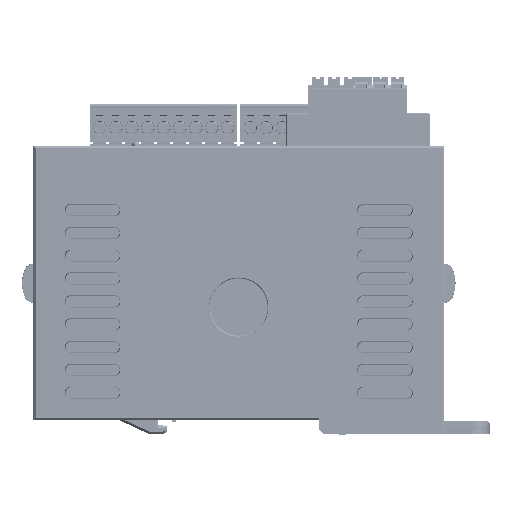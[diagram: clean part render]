
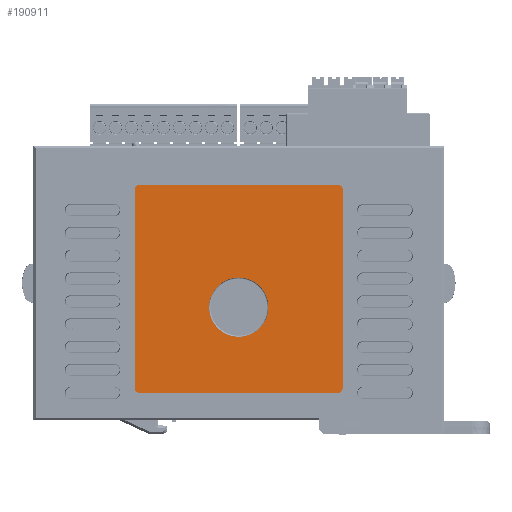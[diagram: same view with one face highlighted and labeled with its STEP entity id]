
A CAD part, left-side view. The second image highlights one B-rep face of the part: STEP entity #190911.
In plain terms, the highlighted planar face has unit normal (-1, 0, 0) as drawn and (0, 0, 1) by its records, which use the part's own axes.
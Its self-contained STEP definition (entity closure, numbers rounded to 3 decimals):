
#3100 = CARTESIAN_POINT ( 'NONE',  ( 16.751, -11.75, 38.24 ) ) ;
#7565 = CARTESIAN_POINT ( 'NONE',  ( -5.999, 32.75, 38.24 ) ) ;
#10927 = AXIS2_PLACEMENT_3D ( 'NONE', #42569, #183455, #324505 ) ;
#12133 = CARTESIAN_POINT ( 'NONE',  ( 16.751, 31.75, 38.24 ) ) ;
#12601 = DIRECTION ( 'NONE',  ( 0., -1., 0. ) ) ;
#14806 = ORIENTED_EDGE ( 'NONE', *, *, #151912, .F. ) ;
#16187 = EDGE_CURVE ( 'NONE', #309406, #153393, #106081, .T. ) ;
#22119 = CIRCLE ( 'NONE', #280465, 6.5 ) ;
#27889 = EDGE_LOOP ( 'NONE', ( #182240, #371997, #408412, #155685, #242946, #146471, #303412, #278744 ) ) ;
#32069 = CIRCLE ( 'NONE', #157356, 1. ) ;
#39782 = AXIS2_PLACEMENT_3D ( 'NONE', #242943, #411842, #62761 ) ;
#42569 = CARTESIAN_POINT ( 'NONE',  ( -27.749, 31.75, 38.24 ) ) ;
#46252 = VECTOR ( 'NONE', #348517, 1000. ) ;
#48190 = AXIS2_PLACEMENT_3D ( 'NONE', #331530, #444783, #12601 ) ;
#52813 = CARTESIAN_POINT ( 'NONE',  ( 16.751, 10., 38.24 ) ) ;
#62761 = DIRECTION ( 'NONE',  ( 0., 1., 0. ) ) ;
#63777 = CARTESIAN_POINT ( 'NONE',  ( -27.749, -11.75, 38.24 ) ) ;
#64121 = CARTESIAN_POINT ( 'NONE',  ( 15.751, 32.75, 38.24 ) ) ;
#76538 = DIRECTION ( 'NONE',  ( 1., 0., 0. ) ) ;
#82929 = LINE ( 'NONE', #284122, #378908 ) ;
#86045 = DIRECTION ( 'NONE',  ( 1., 0., 0. ) ) ;
#105158 = EDGE_CURVE ( 'NONE', #143763, #313792, #32069, .T. ) ;
#106081 = CIRCLE ( 'NONE', #39782, 6.5 ) ;
#107930 = VERTEX_POINT ( 'NONE', #198073 ) ;
#116447 = VERTEX_POINT ( 'NONE', #12133 ) ;
#126222 = DIRECTION ( 'NONE',  ( 0., 0., -1. ) ) ;
#128935 = DIRECTION ( 'NONE',  ( 0., -1., 0. ) ) ;
#136385 = CARTESIAN_POINT ( 'NONE',  ( -27.749, 32.75, 38.24 ) ) ;
#143763 = VERTEX_POINT ( 'NONE', #253726 ) ;
#146236 = CARTESIAN_POINT ( 'NONE',  ( -28.749, -11.75, 38.24 ) ) ;
#146471 = ORIENTED_EDGE ( 'NONE', *, *, #343632, .F. ) ;
#151912 = EDGE_CURVE ( 'NONE', #153393, #309406, #22119, .T. ) ;
#153393 = VERTEX_POINT ( 'NONE', #215869 ) ;
#155685 = ORIENTED_EDGE ( 'NONE', *, *, #205088, .F. ) ;
#157356 = AXIS2_PLACEMENT_3D ( 'NONE', #63777, #126222, #271795 ) ;
#165931 = CIRCLE ( 'NONE', #10927, 1. ) ;
#166176 = EDGE_CURVE ( 'NONE', #107930, #143763, #309267, .T. ) ;
#168651 = DIRECTION ( 'NONE',  ( 0., 0., -1. ) ) ;
#173572 = CIRCLE ( 'NONE', #372974, 1. ) ;
#177023 = CARTESIAN_POINT ( 'NONE',  ( -28.749, 31.75, 38.24 ) ) ;
#182240 = ORIENTED_EDGE ( 'NONE', *, *, #202336, .F. ) ;
#183455 = DIRECTION ( 'NONE',  ( 0., 0., -1. ) ) ;
#184634 = CIRCLE ( 'NONE', #243752, 1. ) ;
#188196 = FACE_BOUND ( 'NONE', #309587, .T. ) ;
#189163 = DIRECTION ( 'NONE',  ( 0., 1., 0. ) ) ;
#190911 = ADVANCED_FACE ( 'NONE', ( #188196, #301396 ), #329251, .T. ) ;
#194344 = VECTOR ( 'NONE', #128935, 1000. ) ;
#198073 = CARTESIAN_POINT ( 'NONE',  ( 15.751, -12.75, 38.24 ) ) ;
#198793 = DIRECTION ( 'NONE',  ( 0., -1., 0. ) ) ;
#202336 = EDGE_CURVE ( 'NONE', #250034, #107930, #184634, .T. ) ;
#205088 = EDGE_CURVE ( 'NONE', #335410, #235280, #439724, .T. ) ;
#215869 = CARTESIAN_POINT ( 'NONE',  ( -3.5, 10., 38.24 ) ) ;
#235280 = VERTEX_POINT ( 'NONE', #64121 ) ;
#242943 = CARTESIAN_POINT ( 'NONE',  ( -10., 10., 38.24 ) ) ;
#242946 = ORIENTED_EDGE ( 'NONE', *, *, #275935, .F. ) ;
#243752 = AXIS2_PLACEMENT_3D ( 'NONE', #252176, #393223, #76538 ) ;
#248898 = CARTESIAN_POINT ( 'NONE',  ( -10., 10., 38.24 ) ) ;
#250034 = VERTEX_POINT ( 'NONE', #3100 ) ;
#252176 = CARTESIAN_POINT ( 'NONE',  ( 15.751, -11.75, 38.24 ) ) ;
#253726 = CARTESIAN_POINT ( 'NONE',  ( -27.749, -12.75, 38.24 ) ) ;
#271795 = DIRECTION ( 'NONE',  ( 0., -1., 0. ) ) ;
#275935 = EDGE_CURVE ( 'NONE', #338075, #335410, #165931, .T. ) ;
#278744 = ORIENTED_EDGE ( 'NONE', *, *, #166176, .F. ) ;
#280465 = AXIS2_PLACEMENT_3D ( 'NONE', #248898, #313716, #457049 ) ;
#284122 = CARTESIAN_POINT ( 'NONE',  ( -28.749, 10., 38.24 ) ) ;
#301396 = FACE_OUTER_BOUND ( 'NONE', #27889, .T. ) ;
#303412 = ORIENTED_EDGE ( 'NONE', *, *, #105158, .F. ) ;
#304514 = EDGE_CURVE ( 'NONE', #235280, #116447, #173572, .T. ) ;
#309267 = LINE ( 'NONE', #313830, #46252 ) ;
#309406 = VERTEX_POINT ( 'NONE', #375375 ) ;
#309587 = EDGE_LOOP ( 'NONE', ( #14806, #316315 ) ) ;
#313716 = DIRECTION ( 'NONE',  ( 0., 0., 1. ) ) ;
#313792 = VERTEX_POINT ( 'NONE', #146236 ) ;
#313830 = CARTESIAN_POINT ( 'NONE',  ( -5.999, -12.75, 38.24 ) ) ;
#316315 = ORIENTED_EDGE ( 'NONE', *, *, #16187, .F. ) ;
#324505 = DIRECTION ( 'NONE',  ( 0., -1., 0. ) ) ;
#329251 = PLANE ( 'NONE',  #48190 ) ;
#331530 = CARTESIAN_POINT ( 'NONE',  ( -31.024, -15.025, 38.24 ) ) ;
#335410 = VERTEX_POINT ( 'NONE', #136385 ) ;
#338075 = VERTEX_POINT ( 'NONE', #177023 ) ;
#343632 = EDGE_CURVE ( 'NONE', #313792, #338075, #82929, .T. ) ;
#343742 = EDGE_CURVE ( 'NONE', #116447, #250034, #438876, .T. ) ;
#348517 = DIRECTION ( 'NONE',  ( -1., 0., 0. ) ) ;
#371997 = ORIENTED_EDGE ( 'NONE', *, *, #343742, .F. ) ;
#372271 = CARTESIAN_POINT ( 'NONE',  ( 15.751, 31.75, 38.24 ) ) ;
#372974 = AXIS2_PLACEMENT_3D ( 'NONE', #372271, #168651, #198793 ) ;
#375375 = CARTESIAN_POINT ( 'NONE',  ( -16.5, 10., 38.24 ) ) ;
#378908 = VECTOR ( 'NONE', #189163, 1000. ) ;
#386000 = VECTOR ( 'NONE', #86045, 1000. ) ;
#393223 = DIRECTION ( 'NONE',  ( 0., 0., -1. ) ) ;
#408412 = ORIENTED_EDGE ( 'NONE', *, *, #304514, .F. ) ;
#411842 = DIRECTION ( 'NONE',  ( 0., 0., 1. ) ) ;
#438876 = LINE ( 'NONE', #52813, #194344 ) ;
#439724 = LINE ( 'NONE', #7565, #386000 ) ;
#444783 = DIRECTION ( 'NONE',  ( 0., 0., 1. ) ) ;
#457049 = DIRECTION ( 'NONE',  ( 0., 1., 0. ) ) ;
